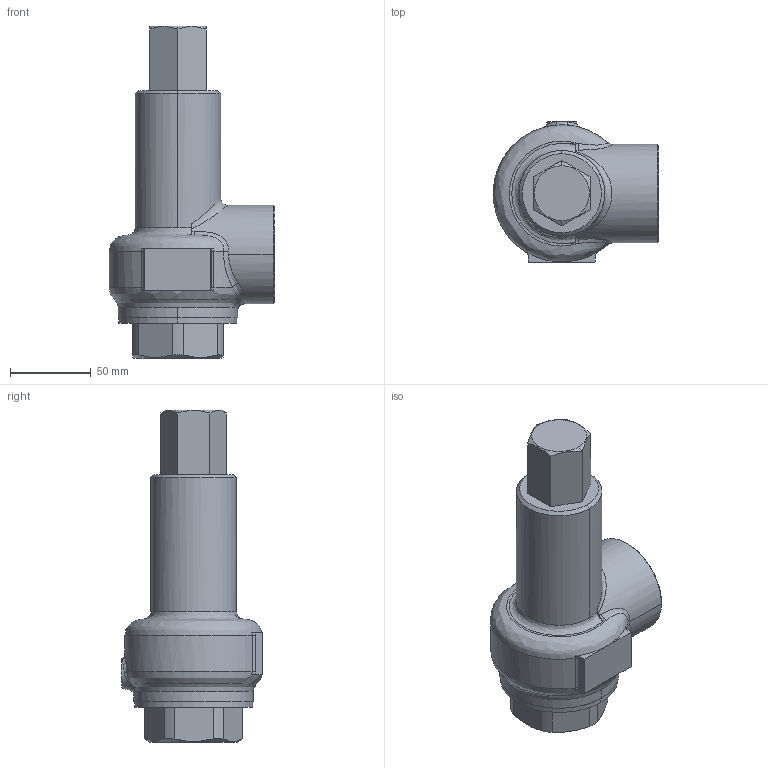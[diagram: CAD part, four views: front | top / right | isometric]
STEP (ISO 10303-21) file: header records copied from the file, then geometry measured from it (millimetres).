
FILE_DESCRIPTION( (''), '2;1');
FILE_NAME ('PC1027.9568.AL-140 40A_8506.stp','2025-07-28T13:42:05',(''),(''),'spGate 19.8.4 (****-****-****-****)','','');
FILE_SCHEMA (('AUTOMOTIVE_DESIGN'));
Length unit declared in the file: millimetre
Products named in the file (2): Assembly; AL-140 40A-3D
Assembly tree (1 placements, depth 2):
  Assembly
    AL-140 40A-3D
Bounding box: 102.49 x 87 x 205.5 mm (x, y, z)
Volume: 602823.9 mm3; surface area: 56002.1 mm2
Topology: 1 solids, 1 shells, 94 faces, 229 edges, 142 vertices
Faces by surface type: bspline 45, plane 29, cylinder 20
Entity records: 6444 total; most frequent: CARTESIAN_POINT 2694, ORIENTED_EDGE 458, DIRECTION 324, COLOUR_RGB 324, PRESENTATION_STYLE_ASSIGNMENT 324, STYLED_ITEM 324, EDGE_CURVE 229, DRAUGHTING_PRE_DEFINED_CURVE_FONT 229
